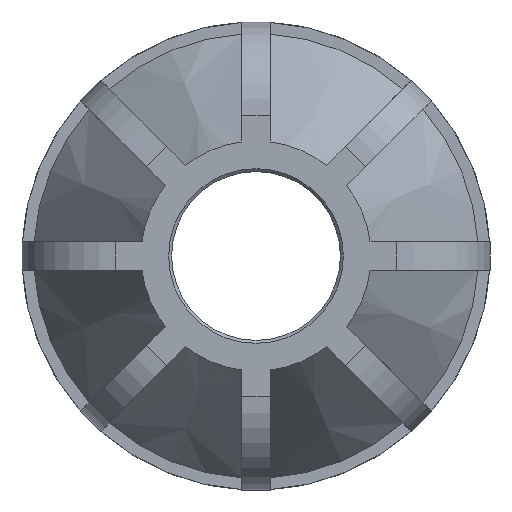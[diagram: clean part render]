
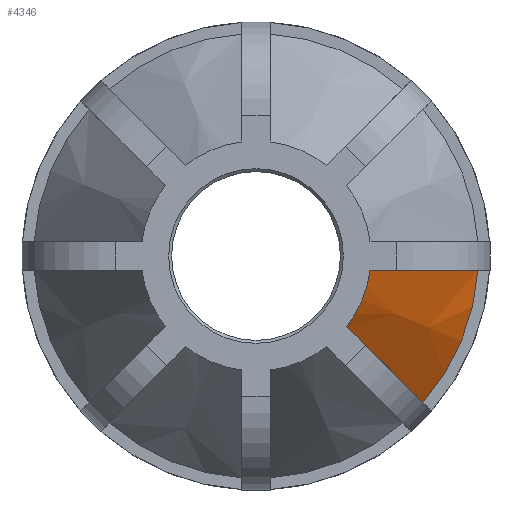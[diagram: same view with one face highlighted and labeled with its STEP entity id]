
A CAD part, left-side view. The second image highlights one B-rep face of the part: STEP entity #4346.
In plain terms, the highlighted conical face has half-angle 31.948 degrees and reference radius 29.92 mm.
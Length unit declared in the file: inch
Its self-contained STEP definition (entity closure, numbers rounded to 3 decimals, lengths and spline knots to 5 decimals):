
#25=CONICAL_SURFACE('',#4693,1.17797,0.558);
#99=(
BOUNDED_CURVE()
B_SPLINE_CURVE(2,(#6999,#7000,#7001),.UNSPECIFIED.,.F.,.F.)
B_SPLINE_CURVE_WITH_KNOTS((3,3),(0.,3.60688),.UNSPECIFIED.)
CURVE()
GEOMETRIC_REPRESENTATION_ITEM()
RATIONAL_B_SPLINE_CURVE((1.,1.055,1.))
REPRESENTATION_ITEM('')
);
#108=(
BOUNDED_CURVE()
B_SPLINE_CURVE(2,(#7179,#7180,#7181),.UNSPECIFIED.,.F.,.F.)
B_SPLINE_CURVE_WITH_KNOTS((3,3),(0.,3.60688),.UNSPECIFIED.)
CURVE()
GEOMETRIC_REPRESENTATION_ITEM()
RATIONAL_B_SPLINE_CURVE((1.,1.055,1.))
REPRESENTATION_ITEM('')
);
#394=FACE_OUTER_BOUND('',#616,.T.);
#616=EDGE_LOOP('',(#3340,#3341,#3342,#3343));
#1500=CIRCLE('',#4689,0.80269);
#1504=CIRCLE('',#4694,1.55325);
#1829=VERTEX_POINT('',#6996);
#1830=VERTEX_POINT('',#6998);
#1880=VERTEX_POINT('',#7166);
#1884=VERTEX_POINT('',#7177);
#2342=EDGE_CURVE('',#1830,#1829,#99,.T.);
#2420=EDGE_CURVE('',#1880,#1830,#1500,.T.);
#2426=EDGE_CURVE('',#1884,#1829,#1504,.T.);
#2427=EDGE_CURVE('',#1884,#1880,#108,.T.);
#3340=ORIENTED_EDGE('',*,*,#2342,.T.);
#3341=ORIENTED_EDGE('',*,*,#2426,.F.);
#3342=ORIENTED_EDGE('',*,*,#2427,.T.);
#3343=ORIENTED_EDGE('',*,*,#2420,.T.);
#4346=ADVANCED_FACE('',(#394),#25,.T.);
#4689=AXIS2_PLACEMENT_3D('',#7167,#5563,#5564);
#4693=AXIS2_PLACEMENT_3D('',#7176,#5573,#5574);
#4694=AXIS2_PLACEMENT_3D('',#7178,#5575,#5576);
#5563=DIRECTION('center_axis',(1.,0.,0.));
#5564=DIRECTION('ref_axis',(0.,0.,-1.));
#5573=DIRECTION('center_axis',(1.,0.,0.));
#5574=DIRECTION('ref_axis',(0.,1.,0.));
#5575=DIRECTION('center_axis',(1.,0.,0.));
#5576=DIRECTION('ref_axis',(0.,0.,-1.));
#6996=CARTESIAN_POINT('',(-3.4044,-1.16622,-1.02593));
#6998=CARTESIAN_POINT('',(-4.608,-0.63338,-0.49309));
#6999=CARTESIAN_POINT('Ctrl Pts',(-4.608,-0.63338,-0.49309));
#7000=CARTESIAN_POINT('Ctrl Pts',(-4.19945,-0.81492,
-0.67463));
#7001=CARTESIAN_POINT('Ctrl Pts',(-3.4044,-1.16622,-1.02593));
#7166=CARTESIAN_POINT('',(-4.608,-0.79653,-0.0992));
#7167=CARTESIAN_POINT('Origin',(-4.608,0.,0.));
#7176=CARTESIAN_POINT('Origin',(-4.0062,0.,0.));
#7177=CARTESIAN_POINT('',(-3.4044,-1.55008,-0.0992));
#7178=CARTESIAN_POINT('Origin',(-3.4044,0.,0.));
#7179=CARTESIAN_POINT('Ctrl Pts',(-3.4044,-1.55008,-0.0992));
#7180=CARTESIAN_POINT('Ctrl Pts',(-4.19945,-1.05327,-0.0992));
#7181=CARTESIAN_POINT('Ctrl Pts',(-4.608,-0.79653,-0.0992));
